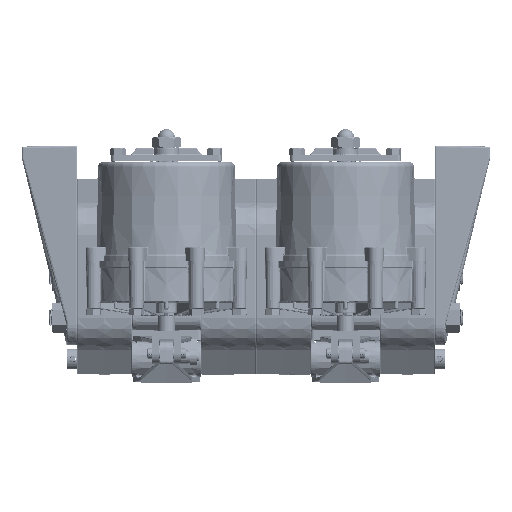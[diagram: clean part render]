
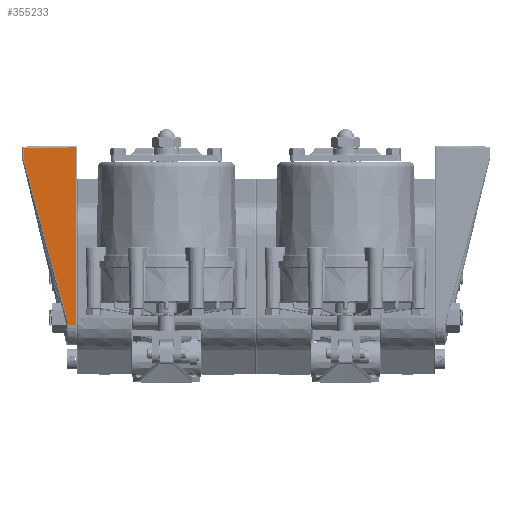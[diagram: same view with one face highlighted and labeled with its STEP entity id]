
A CAD part, left-side view. The second image highlights one B-rep face of the part: STEP entity #355233.
In plain terms, the highlighted planar face has unit normal (-1, 0.018, 0).
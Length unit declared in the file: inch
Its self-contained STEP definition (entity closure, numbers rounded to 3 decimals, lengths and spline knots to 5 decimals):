
#4312 = CARTESIAN_POINT ( 'NONE',  ( -4.14288, 6.93641, -1.18228 ) ) ;
#5537 = CARTESIAN_POINT ( 'NONE',  ( -4.14481, 6.82607, -1.65194 ) ) ;
#11375 = DIRECTION ( 'NONE',  ( 0., 0., -1. ) ) ;
#12744 = CARTESIAN_POINT ( 'NONE',  ( -4.11713, 8.41163, 4.21433 ) ) ;
#19865 = DIRECTION ( 'NONE',  ( -1., 0.017, 0. ) ) ;
#20570 = AXIS2_PLACEMENT_3D ( 'NONE', #189568, #19865, #217958 ) ;
#21821 = B_SPLINE_CURVE_WITH_KNOTS ( 'NONE', 3,
 ( #100352, #269940, #128664, #326897 ),
 .UNSPECIFIED., .F., .F.,
 ( 4, 4 ),
 ( 0.00186, 0.00257 ),
 .UNSPECIFIED. ) ;
#25976 = VECTOR ( 'NONE', #96684, 39.37008 ) ;
#32861 = CARTESIAN_POINT ( 'NONE',  ( -4.14328, 6.91333, -1.27598 ) ) ;
#34119 = CARTESIAN_POINT ( 'NONE',  ( -4.14495, 6.81778, -1.69942 ) ) ;
#38027 = DIRECTION ( 'NONE',  ( -0.017, -1., 0. ) ) ;
#52857 = EDGE_CURVE ( 'NONE', #234161, #131156, #213130, .T. ) ;
#53981 = EDGE_CURVE ( 'NONE', #81818, #75254, #176682, .T. ) ;
#56193 = EDGE_LOOP ( 'NONE', ( #172381, #197214, #143141, #311101, #118841, #259915, #164202, #111336 ) ) ;
#60912 = LINE ( 'NONE', #179841, #202570 ) ;
#62499 = CARTESIAN_POINT ( 'NONE',  ( -4.14502, 6.81359, -1.73538 ) ) ;
#69812 = CARTESIAN_POINT ( 'NONE',  ( -4.14288, 6.93641, -1.18228 ) ) ;
#75254 = VERTEX_POINT ( 'NONE', #285027 ) ;
#78281 = CARTESIAN_POINT ( 'NONE',  ( -4.14994, 6.5318, -1.75 ) ) ;
#79769 = EDGE_CURVE ( 'NONE', #131156, #81818, #159834, .T. ) ;
#81818 = VERTEX_POINT ( 'NONE', #236323 ) ;
#84628 = VECTOR ( 'NONE', #99471, 39.37008 ) ;
#90625 = EDGE_CURVE ( 'NONE', #92907, #234161, #170833, .T. ) ;
#92907 = VERTEX_POINT ( 'NONE', #199614 ) ;
#95604 = VECTOR ( 'NONE', #38027, 39.37008 ) ;
#96684 = DIRECTION ( 'NONE',  ( 0., 0., -1. ) ) ;
#99471 = DIRECTION ( 'NONE',  ( 0.017, 1., -0.017 ) ) ;
#100352 = CARTESIAN_POINT ( 'NONE',  ( -4.11677, 8.43219, 4.23347 ) ) ;
#111336 = ORIENTED_EDGE ( 'NONE', *, *, #230971, .T. ) ;
#118841 = ORIENTED_EDGE ( 'NONE', *, *, #292083, .T. ) ;
#128664 = CARTESIAN_POINT ( 'NONE',  ( -4.11701, 8.41838, 4.22074 ) ) ;
#131156 = VERTEX_POINT ( 'NONE', #211080 ) ;
#143141 = ORIENTED_EDGE ( 'NONE', *, *, #79769, .T. ) ;
#146648 = CARTESIAN_POINT ( 'NONE',  ( -4.14427, 6.85702, -1.51057 ) ) ;
#156683 = CARTESIAN_POINT ( 'NONE',  ( -4.14994, 6.5318, 4.68751 ) ) ;
#159799 = PLANE ( 'NONE',  #20570 ) ;
#159834 = LINE ( 'NONE', #269054, #84628 ) ;
#163465 = EDGE_CURVE ( 'NONE', #305702, #237544, #306567, .T. ) ;
#164202 = ORIENTED_EDGE ( 'NONE', *, *, #163465, .T. ) ;
#170833 = LINE ( 'NONE', #203830, #95604 ) ;
#172381 = ORIENTED_EDGE ( 'NONE', *, *, #90625, .T. ) ;
#175133 = CARTESIAN_POINT ( 'NONE',  ( -4.14472, 6.83094, -1.62833 ) ) ;
#176682 = LINE ( 'NONE', #237708, #25976 ) ;
#179841 = CARTESIAN_POINT ( 'NONE',  ( -4.14502, 6.81359, 4.75 ) ) ;
#182466 = CARTESIAN_POINT ( 'NONE',  ( -4.12571, 7.91989, 2.41546 ) ) ;
#185282 = DIRECTION ( 'NONE',  ( 0., 0., 1. ) ) ;
#189568 = CARTESIAN_POINT ( 'NONE',  ( -4.1505, 6.5, 4.75 ) ) ;
#192200 = CARTESIAN_POINT ( 'NONE',  ( -4.11713, 8.41163, 4.21433 ) ) ;
#197214 = ORIENTED_EDGE ( 'NONE', *, *, #52857, .T. ) ;
#199614 = CARTESIAN_POINT ( 'NONE',  ( -4.14502, 6.81359, -1.75 ) ) ;
#202570 = VECTOR ( 'NONE', #11375, 39.37008 ) ;
#203539 = CARTESIAN_POINT ( 'NONE',  ( -4.14492, 6.81973, -1.68753 ) ) ;
#203830 = CARTESIAN_POINT ( 'NONE',  ( -4.1505, 6.5, -1.75 ) ) ;
#204306 = VECTOR ( 'NONE', #185282, 39.37008 ) ;
#211080 = CARTESIAN_POINT ( 'NONE',  ( -4.14994, 6.5318, 4.68695 ) ) ;
#213130 = LINE ( 'NONE', #156683, #204306 ) ;
#213461 = B_SPLINE_CURVE_WITH_KNOTS ( 'NONE', 3,
 ( #12744, #182466, #239243, #69812 ),
 .UNSPECIFIED., .F., .F.,
 ( 4, 4 ),
 ( 0.05064, 0.96206 ),
 .UNSPECIFIED. ) ;
#216270 = CARTESIAN_POINT ( 'NONE',  ( -4.14502, 6.81359, -1.74761 ) ) ;
#217958 = DIRECTION ( 'NONE',  ( 0.017, 1., 0. ) ) ;
#230971 = EDGE_CURVE ( 'NONE', #237544, #92907, #60912, .T. ) ;
#232000 = CARTESIAN_POINT ( 'NONE',  ( -4.145, 6.81472, -1.72334 ) ) ;
#234161 = VERTEX_POINT ( 'NONE', #78281 ) ;
#235551 = CARTESIAN_POINT ( 'NONE',  ( -4.14288, 6.93641, -1.18228 ) ) ;
#236323 = CARTESIAN_POINT ( 'NONE',  ( -4.11677, 8.43219, 4.65378 ) ) ;
#237544 = VERTEX_POINT ( 'NONE', #216270 ) ;
#237708 = CARTESIAN_POINT ( 'NONE',  ( -4.11677, 8.43219, 4.27316 ) ) ;
#239243 = CARTESIAN_POINT ( 'NONE',  ( -4.1343, 7.42815, 0.61659 ) ) ;
#254116 = VERTEX_POINT ( 'NONE', #192200 ) ;
#259915 = ORIENTED_EDGE ( 'NONE', *, *, #280993, .T. ) ;
#260559 = CARTESIAN_POINT ( 'NONE',  ( -4.14502, 6.81359, -1.74761 ) ) ;
#269054 = CARTESIAN_POINT ( 'NONE',  ( -4.15052, 6.49891, 4.68753 ) ) ;
#269940 = CARTESIAN_POINT ( 'NONE',  ( -4.11689, 8.42521, 4.22723 ) ) ;
#280993 = EDGE_CURVE ( 'NONE', #254116, #305702, #213461, .T. ) ;
#285027 = CARTESIAN_POINT ( 'NONE',  ( -4.11677, 8.43219, 4.23347 ) ) ;
#292083 = EDGE_CURVE ( 'NONE', #75254, #254116, #21821, .T. ) ;
#305702 = VERTEX_POINT ( 'NONE', #235551 ) ;
#306567 = B_SPLINE_CURVE_WITH_KNOTS ( 'NONE', 3,
 ( #4312, #32861, #316307, #146648, #344802, #175133, #5537, #203539, #34119, #232000, #62499, #260559 ),
 .UNSPECIFIED., .F., .F.,
 ( 4, 2, 2, 2, 2, 4 ),
 ( -0.00005, 0.00731, 0.01098, 0.01282, 0.01374, 0.01466 ),
 .UNSPECIFIED. ) ;
#311101 = ORIENTED_EDGE ( 'NONE', *, *, #53981, .T. ) ;
#316307 = CARTESIAN_POINT ( 'NONE',  ( -4.14369, 6.89028, -1.3697 ) ) ;
#326897 = CARTESIAN_POINT ( 'NONE',  ( -4.11713, 8.41163, 4.21433 ) ) ;
#344802 = CARTESIAN_POINT ( 'NONE',  ( -4.14446, 6.8461, -1.55759 ) ) ;
#351645 = FACE_OUTER_BOUND ( 'NONE', #56193, .T. ) ;
#355233 = ADVANCED_FACE ( 'NONE', ( #351645 ), #159799, .T. ) ;
